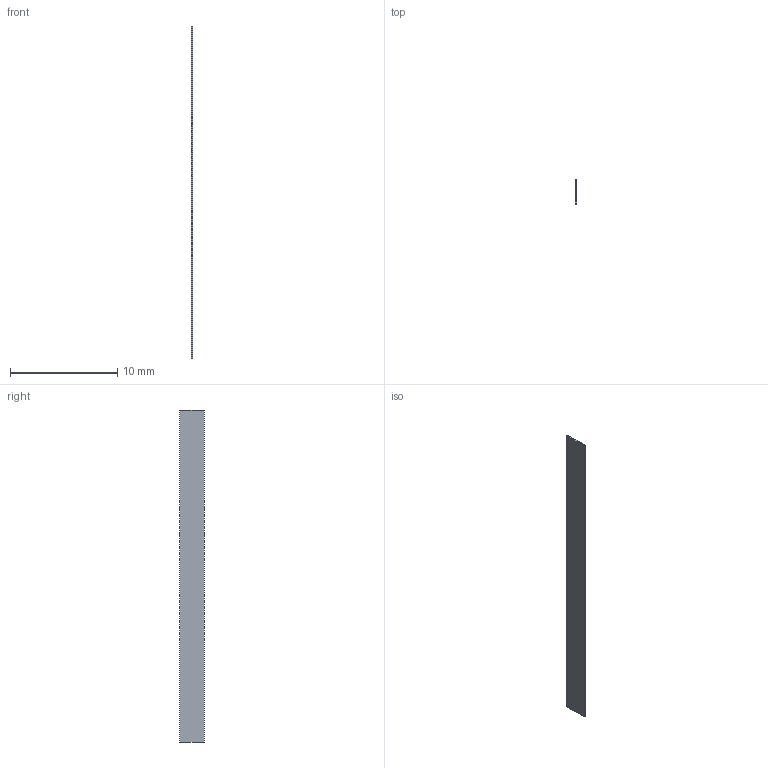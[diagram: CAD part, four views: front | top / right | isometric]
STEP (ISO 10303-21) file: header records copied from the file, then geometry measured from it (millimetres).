
FILE_DESCRIPTION(('Open CASCADE Model'),'2;1');
FILE_NAME('Open CASCADE Shape Model','2026-11-23T18:10:19',('Author'),( 'Open CASCADE'),'Open CASCADE STEP processor 8.0','build123d', 'Unknown');
FILE_SCHEMA(('AUTOMOTIVE_DESIGN { 1 0 10303 214 1 1 1 1 }'));
Length unit declared in the file: millimetre
Products named in the file (2): =>[0:1:1:2]; COMPOUND
Assembly tree (1 placements, depth 2):
  =>[0:1:1:2]
    COMPOUND
Bounding box: 0.13 x 2.3 x 31 mm (x, y, z)
Volume: 9.3 mm3; surface area: 151.3 mm2
Topology: 1 solids, 1 shells, 6 faces, 12 edges, 8 vertices
Faces by surface type: plane 6
Entity records: 340 total; most frequent: CARTESIAN_POINT 52, DIRECTION 52, LINE 36, VECTOR 36, ORIENTED_EDGE 24, PCURVE 24, DEFINITIONAL_REPRESENTATION 24, EDGE_CURVE 12
